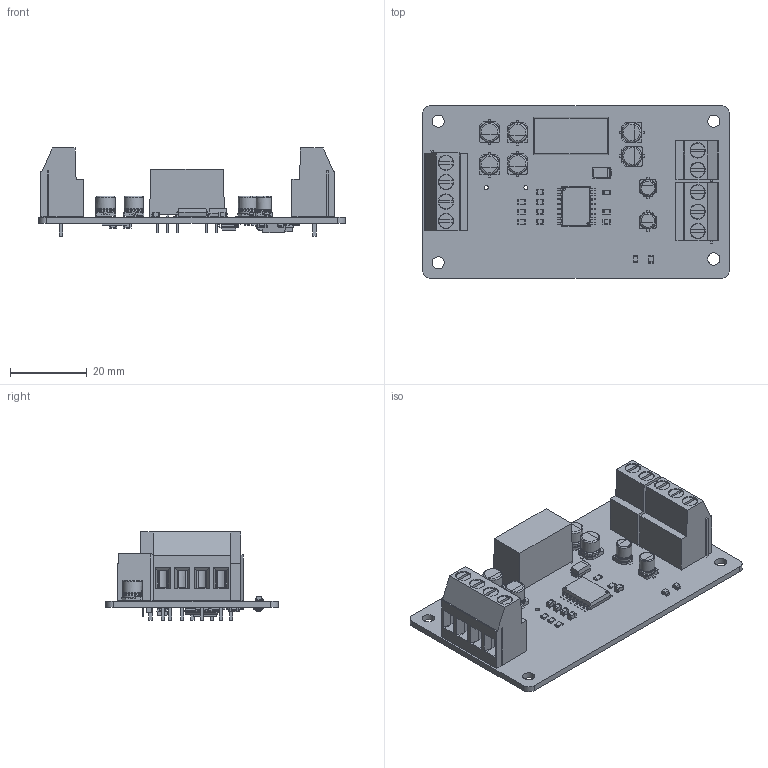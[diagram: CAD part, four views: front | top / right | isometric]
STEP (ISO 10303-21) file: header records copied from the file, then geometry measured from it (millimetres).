
FILE_DESCRIPTION(('KiCad electronic assembly'),'2;1');
FILE_NAME('gatedriverckt1.3(single).step','2023-07-29T23:45:43',( 'An Author'),('A Company'),'Open CASCADE STEP processor 6.9', 'KiCad to STEP converter','Unknown');
FILE_SCHEMA(('AUTOMOTIVE_DESIGN { 1 0 10303 214 1 1 1 1 }'));
Length unit declared in the file: millimetre
Products named in the file (32): Open CASCADE STEP translator 6.9 1; CD4093BCMX; COMPOUND; SO16L; C_0805_2012Metric; SOLID; CP_Elec_4x5.4; LED_0805_2012Metric; SOT-23; R_0805_2012Metric; DPAK229P990X238-3N; R_2512_6332Metric; CP_Elec_5x5.4; D_SMA; QA01; TerminalBlock_Phoenix_MKDS-3-3-5.08_1x03_P5.08mm_Horizontal; TerminalBlock_Phoenix_MKDS-3-2-5.08_1x02_P5.08mm_Horizontal; TerminalBlock_Phoenix_MKDS-3-4-5.08_1x04_P5.08mm_Horizontal
Assembly tree (56 placements, depth 3):
  Open CASCADE STEP translator 6.9 1
    CD4093BCMX
      COMPOUND
    SO16L
      COMPOUND
    C_0805_2012Metric  x7
      SOLID
    CP_Elec_4x5.4  x2
      SOLID
    LED_0805_2012Metric  x2
      SOLID
    SOT-23  x2
      SOLID
    R_0805_2012Metric  x10
      SOLID
    DPAK229P990X238-3N
      COMPOUND
    R_2512_6332Metric  x2
      SOLID
    CP_Elec_5x5.4  x6
      SOLID
    D_SMA  x2
      SOLID
    QA01
      COMPOUND
    TerminalBlock_Phoenix_MKDS-3-3-5.08_1x03_P5.08mm_Horizontal
      SOLID
    TerminalBlock_Phoenix_MKDS-3-2-5.08_1x02_P5.08mm_Horizontal
      SOLID
    TerminalBlock_Phoenix_MKDS-3-4-5.08_1x04_P5.08mm_Horizontal
      SOLID
    COMPOUND
Bounding box: 80 x 45 x 23 mm (x, y, z)
Volume: 15944 mm3; surface area: 18615.8 mm2
Topology: 81 solids, 81 shells, 2323 faces, 5835 edges, 3722 vertices
Faces by surface type: plane 1660, cylinder 488, bspline 135, torus 32, revolution 8
Full cylindrical faces by diameter (mm): 1.06 x2, 1.3 x14, 3.2 x4, 3.8 x9, 4 x13, 5 x12
Entity records: 101098 total; most frequent: CARTESIAN_POINT 17705, DIRECTION 14039, LINE 9384, VECTOR 9384, ORIENTED_EDGE 7372, PCURVE 7372, DEFINITIONAL_REPRESENTATION 7372, EDGE_CURVE 3686
